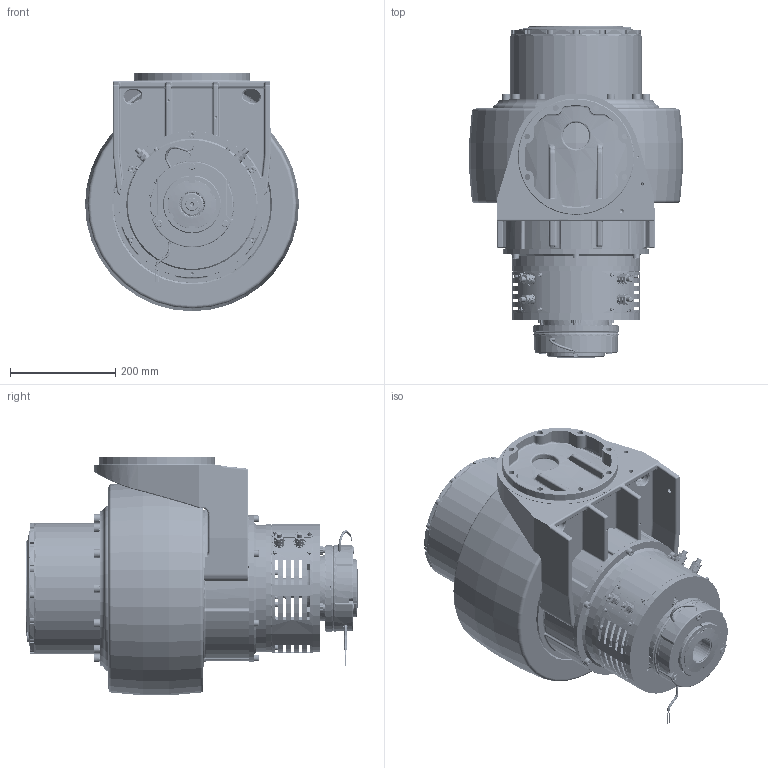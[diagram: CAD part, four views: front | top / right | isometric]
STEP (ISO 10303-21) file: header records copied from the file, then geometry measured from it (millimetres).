
FILE_DESCRIPTION(/* description */ (''),/* implementation_level */ '2;1');
FILE_NAME(/* name */ 'Z:\SITO WEB 2023\Motoruote\Orizzontali NON sterzanti\MR415FM\MR415FM-DC.stp',/* time_stamp */ '2023-08-02T15:35:53+02:00',/* author */ ('cad3'),/* organization */ (''),/* preprocessor_version */ 'ST-DEVELOPER v18.1',/* originating_system */ 'Autodesk Inventor 2022',/* authorisation */ '');
FILE_SCHEMA (('AUTOMOTIVE_DESIGN { 1 0 10303 214 3 1 1 }'));
Products named in the file (1): MR415FM-DC
Bounding box: 406 x 630 x 453 mm (x, y, z)
Volume: 25499053.2 mm3; surface area: 2834541.8 mm2
Topology: 54 solids, 189 shells, 9383 faces, 24499 edges, 15905 vertices
Faces by surface type: plane 5628, cylinder 2044, cone 814, bspline 388, torus 387, sphere 122
Full cylindrical faces by diameter (mm): 1 x2, 1.88 x2, 2 x2, 2.5 x3, 3 x8, 3.545 x8, 4 x10, 4.3 x8, 4.5 x5, 4.917 x12, 5.459 x8, 6 x25, 6.4 x8, 6.5 x14, 6.647 x27, 7 x9, 7.188 x6, 8 x86, 8.2 x3, 8.25 x15, 8.376 x20, 8.4 x6, 8.5 x9, 9.5 x10, 9.917 x3, 10 x42, 10.5 x20, 10.863 x8, 11 x29, 11.5 x4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
Entity records: 389306 total; most frequent: CARTESIAN_POINT 150774, ORIENTED_EDGE 48872, DIRECTION 46816, EDGE_CURVE 24436, AXIS2_PLACEMENT_3D 17297, VERTEX_POINT 16024, LINE 12222, VECTOR 12222
